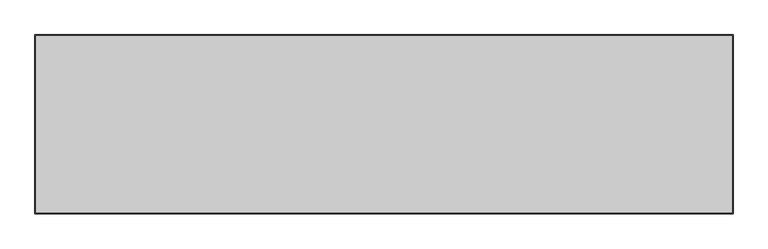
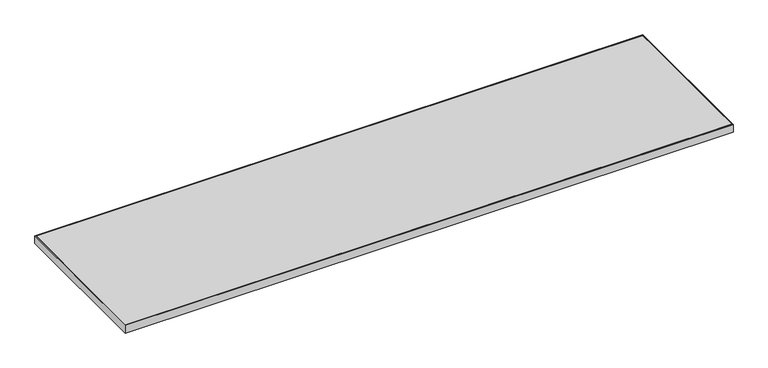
"""IFC4 building model written with IfcOpenShell, lengths in millimetres: furniture geometry, Steelcase - Universal Storage - Square Edge Top - Flush Front - Laminate : Common Top - 24D x 90W."""

from ifc_helpers import new_model, si_unit, frame, origin, place, context, project, spatial, polyline, outline, extrude, source, transform, mapped, element, save


def furniture_de03d026(model_context):
    return source(origin(), model_context, "Body", "SweptSolid", [
        extrude(outline(polyline([(2282.9520001, -3.0479999), (2282.9520001, -584.4540001), (3.0479999, -584.4540001), (3.0479999, -3.0479999), (2282.9520001, -3.0479999)])), frame((0.0, 0.0, 680.72), z_axis=(0.0, 0.0, 1.0), x_axis=(1.0, 0.0, 0.0)), (0.0, 0.0, 1.0), 30.48),
        extrude(outline(polyline([(2286.0, 0.0), (2286.0, -587.502), (0.0, -587.502), (0.0, 0.0), (2286.0, 0.0)]), holes=[polyline([(2282.9520001, -3.0479999), (3.0479999, -3.0479999), (3.0479999, -584.4540001), (2282.9520001, -584.4540001), (2282.9520001, -3.0479999)])]), frame((0.0, 0.0, 680.72), z_axis=(0.0, 0.0, 1.0), x_axis=(1.0, 0.0, 0.0)), (0.0, 0.0, 1.0), 30.48),
    ])


if __name__ == "__main__":
    model = new_model("IFC4")
    model_context = context("Model", 3, world=origin())
    ifc_project = project(units=[si_unit("LENGTHUNIT", "METRE", prefix="MILLI")], contexts=[model_context])
    site = spatial("IfcSite", under=ifc_project)
    building = spatial("IfcBuilding", under=site)
    placement = place(None, origin())
    furniture_shape = furniture_de03d026(model_context)
    element("IfcFurniture", 1, ObjectType="Steelcase - Universal Storage - Square Edge Top - Flush Front - Laminate : Common Top - 24D x 90W", at=placement, inside=building, context=model_context, shape_type="MappedRepresentation", body=[
        mapped(furniture_shape, transform((0.0, 0.0, 0.0), x_axis=(1.0, 0.0, 0.0), y_axis=(0.0, 1.0, 0.0), z_axis=(0.0, 0.0, 1.0))),
    ])
    save(model, "model.ifc")
